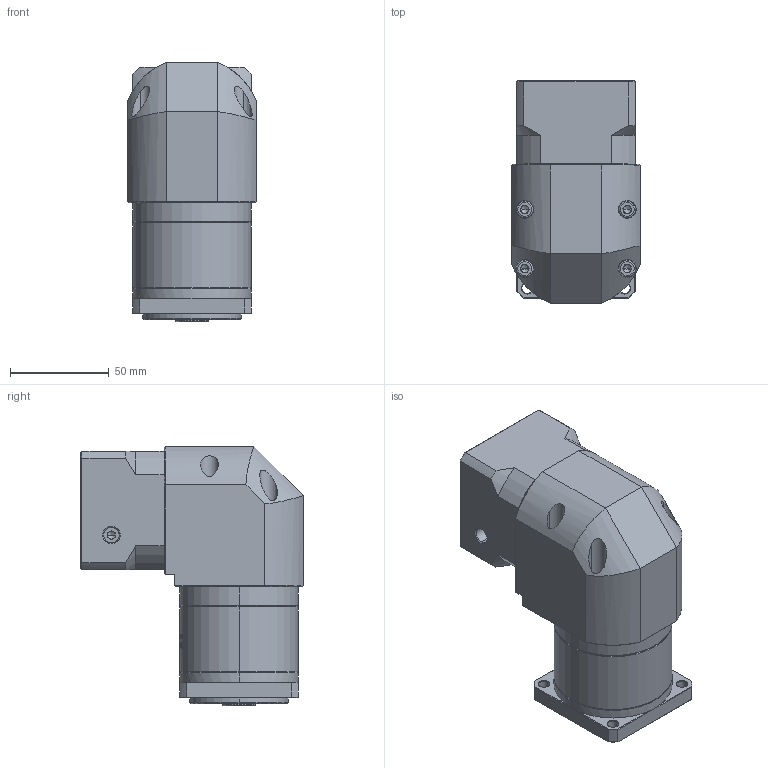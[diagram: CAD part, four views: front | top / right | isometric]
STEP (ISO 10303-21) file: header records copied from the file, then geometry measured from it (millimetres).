
FILE_DESCRIPTION (( 'STEP AP214' ), '1' );
FILE_NAME ('ZFR060-K10-L1-P2-11-50-70-M5.step', '2023-08-17T03:36:59', ( '' ), ( '' ), 'SwSTEP 2.0', 'SolidWorks 2016', '' );
FILE_SCHEMA (( 'AUTOMOTIVE_DESIGN' ));
Length unit declared in the file: millimetre
Products named in the file (1): ZFR060-K10-L1-P2-11-50-70-M5
Bounding box: 65 x 112.7 x 131.5 mm (x, y, z)
Volume: 530129.7 mm3; surface area: 77569.1 mm2
Topology: 5 solids, 6 shells, 1857 faces, 4983 edges, 3222 vertices
Faces by surface type: plane 840, cylinder 364, bspline 347, cone 282, torus 24
Entity records: 100252 total; most frequent: CARTESIAN_POINT 37201, ORIENTED_EDGE 9926, DIRECTION 7478, EDGE_CURVE 4963, VERTEX_POINT 3222, LINE 2554, VECTOR 2554, AXIS2_PLACEMENT_3D 2462
